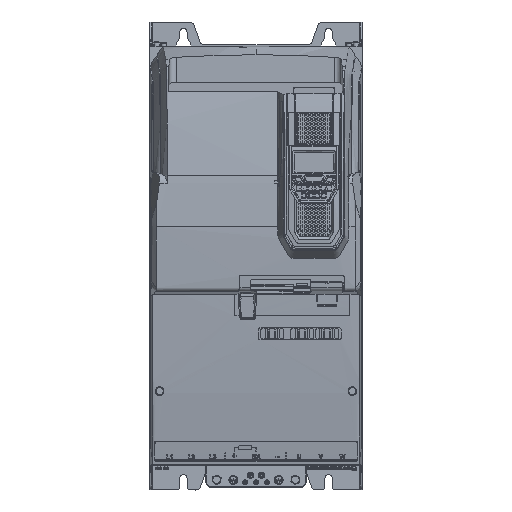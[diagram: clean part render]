
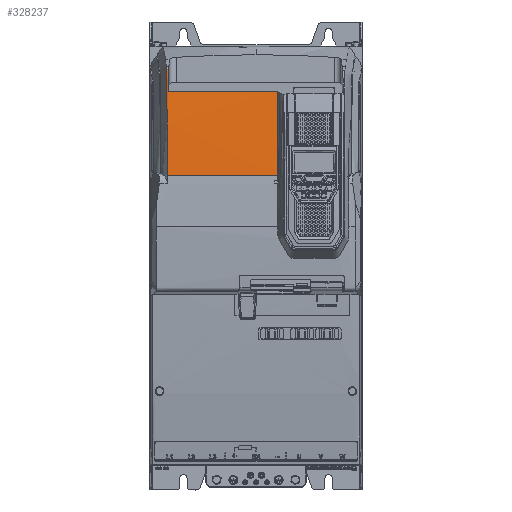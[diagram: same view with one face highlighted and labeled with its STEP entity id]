
A CAD part, top view. The second image highlights one B-rep face of the part: STEP entity #328237.
In plain terms, the highlighted cylindrical face has radius 1200 mm (diameter 2400 mm), a partial arc.
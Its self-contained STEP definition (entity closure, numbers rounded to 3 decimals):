
#5302 = CARTESIAN_POINT ( 'NONE',  ( 34.079, 255.086, 283.637 ) ) ;
#10145 = CARTESIAN_POINT ( 'NONE',  ( -138.052, 235.055, 288.237 ) ) ;
#31103 = CARTESIAN_POINT ( 'NONE',  ( -138.535, 289.42, 277.16 ) ) ;
#37886 = AXIS2_PLACEMENT_3D ( 'NONE', #115413, #221832, #197371 ) ;
#42093 = CYLINDRICAL_SURFACE ( 'NONE', #37886, 1200. ) ;
#52753 = CARTESIAN_POINT ( 'NONE',  ( 34.079, 168.366, 296.254 ) ) ;
#56198 = CARTESIAN_POINT ( 'NONE',  ( 34.079, 255.086, 283.637 ) ) ;
#61046 = VERTEX_POINT ( 'NONE', #147236 ) ;
#62853 = ORIENTED_EDGE ( 'NONE', *, *, #125895, .T. ) ;
#68718 = VERTEX_POINT ( 'NONE', #5302 ) ;
#73642 = VECTOR ( 'NONE', #125041, 1000. ) ;
#78557 = VERTEX_POINT ( 'NONE', #237596 ) ;
#89237 = ORIENTED_EDGE ( 'NONE', *, *, #246447, .F. ) ;
#104392 = DIRECTION ( 'NONE',  ( 1., 0., 0. ) ) ;
#105699 = CARTESIAN_POINT ( 'NONE',  ( 0., 255.086, 283.637 ) ) ;
#113416 = CARTESIAN_POINT ( 'NONE',  ( -135.77, 266.562, 281.645 ) ) ;
#115284 = ORIENTED_EDGE ( 'NONE', *, *, #256564, .F. ) ;
#115397 = CARTESIAN_POINT ( 'NONE',  ( -135.875, 255.086, 283.637 ) ) ;
#115413 = CARTESIAN_POINT ( 'NONE',  ( 0., 49.844, -898.681 ) ) ;
#125041 = DIRECTION ( 'NONE',  ( -1., 0., 0. ) ) ;
#125895 = EDGE_CURVE ( 'NONE', #295365, #78557, #151208, .T. ) ;
#134671 = CARTESIAN_POINT ( 'NONE',  ( 34.079, 211.931, 291.128 ) ) ;
#139197 = CARTESIAN_POINT ( 'NONE',  ( -137.733, 180.025, 295.526 ) ) ;
#144097 = ORIENTED_EDGE ( 'NONE', *, *, #213963, .T. ) ;
#147236 = CARTESIAN_POINT ( 'NONE',  ( -137.582, 124.651, 298.985 ) ) ;
#151208 = LINE ( 'NONE', #173968, #73642 ) ;
#169229 = CARTESIAN_POINT ( 'NONE',  ( -135.875, 255.086, 283.637 ) ) ;
#173968 = CARTESIAN_POINT ( 'NONE',  ( 0., 289.42, 277.16 ) ) ;
#174849 = VERTEX_POINT ( 'NONE', #115397 ) ;
#180685 = VERTEX_POINT ( 'NONE', #213299 ) ;
#183394 = VECTOR ( 'NONE', #104392, 1000. ) ;
#195782 = EDGE_CURVE ( 'NONE', #174849, #295365, #345051, .T. ) ;
#197371 = DIRECTION ( 'NONE',  ( 0., 0., -1. ) ) ;
#200608 = VECTOR ( 'NONE', #343066, 1000. ) ;
#211441 = CARTESIAN_POINT ( 'NONE',  ( 34.079, 124.651, 298.985 ) ) ;
#211496 = EDGE_CURVE ( 'NONE', #61046, #180685, #258046, .T. ) ;
#213299 = CARTESIAN_POINT ( 'NONE',  ( 34.079, 124.651, 298.985 ) ) ;
#213963 = EDGE_CURVE ( 'NONE', #180685, #68718, #232758, .T. ) ;
#221832 = DIRECTION ( 'NONE',  ( 1., 0., 0. ) ) ;
#223269 = CARTESIAN_POINT ( 'NONE',  ( -135.535, 289.42, 277.16 ) ) ;
#232758 = B_SPLINE_CURVE_WITH_KNOTS ( 'NONE', 3,
 ( #211441, #52753, #134671, #56198 ),
 .UNSPECIFIED., .F., .F.,
 ( 4, 4 ),
 ( 0., 0.79 ),
 .UNSPECIFIED. ) ;
#236564 = LINE ( 'NONE', #105699, #200608 ) ;
#237596 = CARTESIAN_POINT ( 'NONE',  ( -138.535, 289.42, 277.16 ) ) ;
#246447 = EDGE_CURVE ( 'NONE', #174849, #68718, #236564, .T. ) ;
#250787 = CARTESIAN_POINT ( 'NONE',  ( -137.582, 124.651, 298.985 ) ) ;
#253177 = FACE_OUTER_BOUND ( 'NONE', #305942, .T. ) ;
#256564 = EDGE_CURVE ( 'NONE', #61046, #78557, #330675, .T. ) ;
#258046 = LINE ( 'NONE', #315551, #183394 ) ;
#263505 = ORIENTED_EDGE ( 'NONE', *, *, #211496, .T. ) ;
#295365 = VERTEX_POINT ( 'NONE', #328788 ) ;
#303554 = CARTESIAN_POINT ( 'NONE',  ( -135.657, 278.007, 279.486 ) ) ;
#305942 = EDGE_LOOP ( 'NONE', ( #89237, #337560, #62853, #115284, #263505, #144097 ) ) ;
#315551 = CARTESIAN_POINT ( 'NONE',  ( 0., 124.651, 298.985 ) ) ;
#328237 = ADVANCED_FACE ( 'NONE', ( #253177 ), #42093, .T. ) ;
#328788 = CARTESIAN_POINT ( 'NONE',  ( -135.535, 289.42, 277.16 ) ) ;
#330675 = B_SPLINE_CURVE_WITH_KNOTS ( 'NONE', 3,
 ( #250787, #139197, #10145, #31103 ),
 .UNSPECIFIED., .F., .F.,
 ( 4, 4 ),
 ( 0., 1. ),
 .UNSPECIFIED. ) ;
#337560 = ORIENTED_EDGE ( 'NONE', *, *, #195782, .T. ) ;
#343066 = DIRECTION ( 'NONE',  ( 1., 0., 0. ) ) ;
#345051 =( BOUNDED_CURVE ( )  B_SPLINE_CURVE ( 3, ( #169229, #113416, #303554, #223269 ),
 .UNSPECIFIED., .F., .T. ) 
 B_SPLINE_CURVE_WITH_KNOTS ( ( 4, 4 ),
 ( 3.313, 3.343 ),
 .UNSPECIFIED. ) 
 CURVE ( )  GEOMETRIC_REPRESENTATION_ITEM ( )  RATIONAL_B_SPLINE_CURVE ( ( 1., 1., 1., 1. ) ) 
 REPRESENTATION_ITEM ( '' )  );
